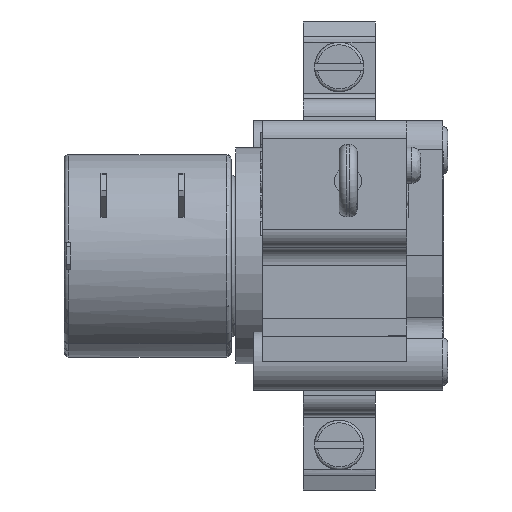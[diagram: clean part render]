
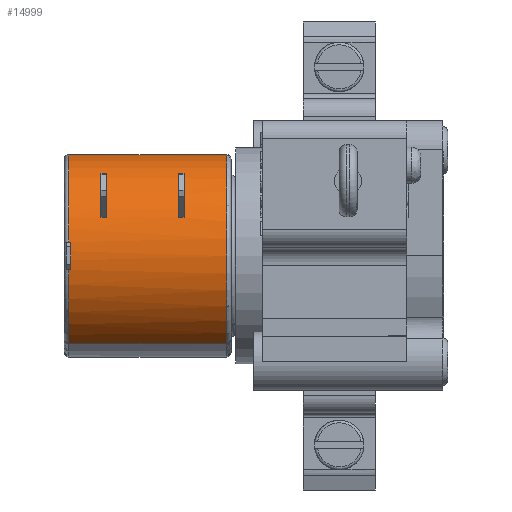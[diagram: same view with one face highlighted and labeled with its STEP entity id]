
A CAD part, top view. The second image highlights one B-rep face of the part: STEP entity #14999.
In plain terms, the highlighted cylindrical face has radius 11.25 mm (diameter 22.5 mm), a partial arc.
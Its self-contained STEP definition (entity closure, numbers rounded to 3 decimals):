
#4269=DIRECTION('',(1.,0.,0.));
#4270=VECTOR('',#4269,17.55);
#4271=CARTESIAN_POINT('',(-21.55,-9.743,5.625));
#4272=LINE('',#4271,#4270);
#4273=DIRECTION('',(1.,0.,0.));
#4274=VECTOR('',#4273,0.25);
#4275=CARTESIAN_POINT('',(-21.55,-1.571,11.14));
#4276=LINE('',#4275,#4274);
#4277=DIRECTION('',(-1.,0.,0.));
#4278=VECTOR('',#4277,0.25);
#4279=CARTESIAN_POINT('',(-21.3,1.5,11.15));
#4280=LINE('',#4279,#4278);
#4281=DIRECTION('',(1.,0.,0.));
#4282=VECTOR('',#4281,17.55);
#4283=CARTESIAN_POINT('',(-21.55,9.743,-5.625));
#4284=LINE('',#4283,#4282);
#4285=DIRECTION('',(-1.,0.,0.));
#4286=VECTOR('',#4285,0.6);
#4287=CARTESIAN_POINT('',(-8.72,6.874,8.906));
#4288=LINE('',#4287,#4286);
#4289=DIRECTION('',(1.,0.,0.));
#4290=VECTOR('',#4289,0.6);
#4291=CARTESIAN_POINT('',(-9.32,4.276,10.406));
#4292=LINE('',#4291,#4290);
#4293=DIRECTION('',(-1.,0.,0.));
#4294=VECTOR('',#4293,0.6);
#4295=CARTESIAN_POINT('',(-17.35,6.874,8.906));
#4296=LINE('',#4295,#4294);
#4297=DIRECTION('',(1.,0.,0.));
#4298=VECTOR('',#4297,0.6);
#4299=CARTESIAN_POINT('',(-17.95,4.276,10.406));
#4300=LINE('',#4299,#4298);
#4301=CARTESIAN_POINT('',(-4.,0.,0.));
#4302=DIRECTION('',(-1.,0.,0.));
#4303=DIRECTION('',(0.,-0.866,0.5));
#4304=AXIS2_PLACEMENT_3D('',#4301,#4302,#4303);
#4306=CARTESIAN_POINT('',(-4.,0.,0.));
#4307=DIRECTION('',(-1.,0.,0.));
#4308=DIRECTION('',(0.,0.873,-0.489));
#4309=AXIS2_PLACEMENT_3D('',#4306,#4307,#4308);
#4321=CARTESIAN_POINT('',(-21.55,-1.571,11.14));
#4323=CARTESIAN_POINT('',(-21.55,0.,0.));
#4324=DIRECTION('',(1.,0.,0.));
#4325=DIRECTION('',(0.,-0.14,0.99));
#4326=AXIS2_PLACEMENT_3D('',#4323,#4324,#4325);
#4363=CARTESIAN_POINT('',(-21.55,0.,0.));
#4364=DIRECTION('',(1.,0.,0.));
#4365=DIRECTION('',(0.,0.866,-0.5));
#4366=AXIS2_PLACEMENT_3D('',#4363,#4364,#4365);
#4368=CARTESIAN_POINT('',(-21.55,0.,0.));
#4369=DIRECTION('',(1.,0.,0.));
#4370=DIRECTION('',(0.,0.501,0.866));
#4371=AXIS2_PLACEMENT_3D('',#4368,#4369,#4370);
#4451=CARTESIAN_POINT('',(-21.3,0.,0.));
#4452=DIRECTION('',(1.,0.,0.));
#4453=DIRECTION('',(0.,0.133,0.991));
#4454=AXIS2_PLACEMENT_3D('',#4451,#4452,#4453);
#4502=CARTESIAN_POINT('',(-8.72,0.,0.));
#4503=DIRECTION('',(1.,0.,0.));
#4504=DIRECTION('',(0.,0.611,0.792));
#4505=AXIS2_PLACEMENT_3D('',#4502,#4503,#4504);
#4533=CARTESIAN_POINT('',(-9.32,0.,0.));
#4534=DIRECTION('',(-1.,0.,0.));
#4535=DIRECTION('',(0.,0.38,0.925));
#4536=AXIS2_PLACEMENT_3D('',#4533,#4534,#4535);
#4596=CARTESIAN_POINT('',(-17.35,0.,0.));
#4597=DIRECTION('',(1.,0.,0.));
#4598=DIRECTION('',(0.,0.611,0.792));
#4599=AXIS2_PLACEMENT_3D('',#4596,#4597,#4598);
#4627=CARTESIAN_POINT('',(-17.95,0.,0.));
#4628=DIRECTION('',(-1.,0.,0.));
#4629=DIRECTION('',(0.,0.38,0.925));
#4630=AXIS2_PLACEMENT_3D('',#4627,#4628,#4629);
#10045=CARTESIAN_POINT('',(-4.,9.743,-5.625));
#10047=VERTEX_POINT('',#10045);
#10049=CARTESIAN_POINT('',(-4.,-9.743,5.625));
#10050=VERTEX_POINT('',#10049);
#10052=CARTESIAN_POINT('',(-21.55,9.743,-5.625));
#10054=VERTEX_POINT('',#10052);
#10055=CARTESIAN_POINT('',(-21.55,-9.743,5.625));
#10056=VERTEX_POINT('',#10055);
#10066=VERTEX_POINT('',#4321);
#10069=CARTESIAN_POINT('',(-21.55,5.634,9.738));
#10070=CARTESIAN_POINT('',(-21.55,1.5,11.15));
#10071=VERTEX_POINT('',#10069);
#10072=VERTEX_POINT('',#10070);
#10073=CARTESIAN_POINT('',(-21.3,-1.571,11.14));
#10074=VERTEX_POINT('',#10073);
#10075=CARTESIAN_POINT('',(-21.3,1.5,11.15));
#10076=VERTEX_POINT('',#10075);
#10077=CARTESIAN_POINT('',(-4.,9.816,-5.496));
#10078=VERTEX_POINT('',#10077);
#10079=CARTESIAN_POINT('',(-8.72,6.874,8.906));
#10080=CARTESIAN_POINT('',(-8.72,4.276,10.406));
#10081=VERTEX_POINT('',#10079);
#10082=VERTEX_POINT('',#10080);
#10083=CARTESIAN_POINT('',(-9.32,6.874,8.906));
#10084=VERTEX_POINT('',#10083);
#10085=CARTESIAN_POINT('',(-9.32,4.276,10.406));
#10086=VERTEX_POINT('',#10085);
#10087=CARTESIAN_POINT('',(-17.35,6.874,8.906));
#10088=CARTESIAN_POINT('',(-17.35,4.276,10.406));
#10089=VERTEX_POINT('',#10087);
#10090=VERTEX_POINT('',#10088);
#10091=CARTESIAN_POINT('',(-17.95,6.874,8.906));
#10092=VERTEX_POINT('',#10091);
#10093=CARTESIAN_POINT('',(-17.95,4.276,10.406));
#10094=VERTEX_POINT('',#10093);
#14954=CARTESIAN_POINT('',(-3.,0.,0.));
#14955=DIRECTION('',(1.,0.,0.));
#14956=DIRECTION('',(0.,-0.866,0.5));
#14957=AXIS2_PLACEMENT_3D('',#14954,#14955,#14956);
#14958=CYLINDRICAL_SURFACE('',#14957,11.25);
#14960=ORIENTED_EDGE('',*,*,#14959,.F.);
#14962=ORIENTED_EDGE('',*,*,#14961,.F.);
#14963=ORIENTED_EDGE('',*,*,#14949,.F.);
#14965=ORIENTED_EDGE('',*,*,#14964,.F.);
#14967=ORIENTED_EDGE('',*,*,#14966,.T.);
#14969=ORIENTED_EDGE('',*,*,#14968,.F.);
#14971=ORIENTED_EDGE('',*,*,#14970,.T.);
#14973=ORIENTED_EDGE('',*,*,#14972,.F.);
#14975=ORIENTED_EDGE('',*,*,#14974,.F.);
#14976=ORIENTED_EDGE('',*,*,#14943,.T.);
#14977=EDGE_LOOP('',(#14960,#14962,#14963,#14965,#14967,#14969,#14971,#14973,
#14975,#14976));
#14978=FACE_OUTER_BOUND('',#14977,.F.);
#14980=ORIENTED_EDGE('',*,*,#14979,.F.);
#14982=ORIENTED_EDGE('',*,*,#14981,.T.);
#14984=ORIENTED_EDGE('',*,*,#14983,.F.);
#14986=ORIENTED_EDGE('',*,*,#14985,.T.);
#14987=EDGE_LOOP('',(#14980,#14982,#14984,#14986));
#14988=FACE_BOUND('',#14987,.F.);
#14990=ORIENTED_EDGE('',*,*,#14989,.F.);
#14992=ORIENTED_EDGE('',*,*,#14991,.T.);
#14994=ORIENTED_EDGE('',*,*,#14993,.F.);
#14996=ORIENTED_EDGE('',*,*,#14995,.T.);
#14997=EDGE_LOOP('',(#14990,#14992,#14994,#14996));
#14998=FACE_BOUND('',#14997,.F.);
#14999=ADVANCED_FACE('',(#14978,#14988,#14998),#14958,.T.);
#4305=CIRCLE('',#4304,11.25);
#4310=CIRCLE('',#4309,11.25);
#4327=CIRCLE('',#4326,11.25);
#4367=CIRCLE('',#4366,11.25);
#4372=CIRCLE('',#4371,11.25);
#4455=CIRCLE('',#4454,11.25);
#4506=CIRCLE('',#4505,11.25);
#4537=CIRCLE('',#4536,11.25);
#4600=CIRCLE('',#4599,11.25);
#4631=CIRCLE('',#4630,11.25);
#14943=EDGE_CURVE('',#10054,#10047,#4284,.T.);
#14949=EDGE_CURVE('',#10056,#10050,#4272,.T.);
#14959=EDGE_CURVE('',#10078,#10047,#4310,.T.);
#14961=EDGE_CURVE('',#10050,#10078,#4305,.T.);
#14964=EDGE_CURVE('',#10066,#10056,#4327,.T.);
#14966=EDGE_CURVE('',#10066,#10074,#4276,.T.);
#14968=EDGE_CURVE('',#10076,#10074,#4455,.T.);
#14970=EDGE_CURVE('',#10076,#10072,#4280,.T.);
#14972=EDGE_CURVE('',#10071,#10072,#4372,.T.);
#14974=EDGE_CURVE('',#10054,#10071,#4367,.T.);
#14979=EDGE_CURVE('',#10081,#10082,#4506,.T.);
#14981=EDGE_CURVE('',#10081,#10084,#4288,.T.);
#14983=EDGE_CURVE('',#10086,#10084,#4537,.T.);
#14985=EDGE_CURVE('',#10086,#10082,#4292,.T.);
#14989=EDGE_CURVE('',#10089,#10090,#4600,.T.);
#14991=EDGE_CURVE('',#10089,#10092,#4296,.T.);
#14993=EDGE_CURVE('',#10094,#10092,#4631,.T.);
#14995=EDGE_CURVE('',#10094,#10090,#4300,.T.);
